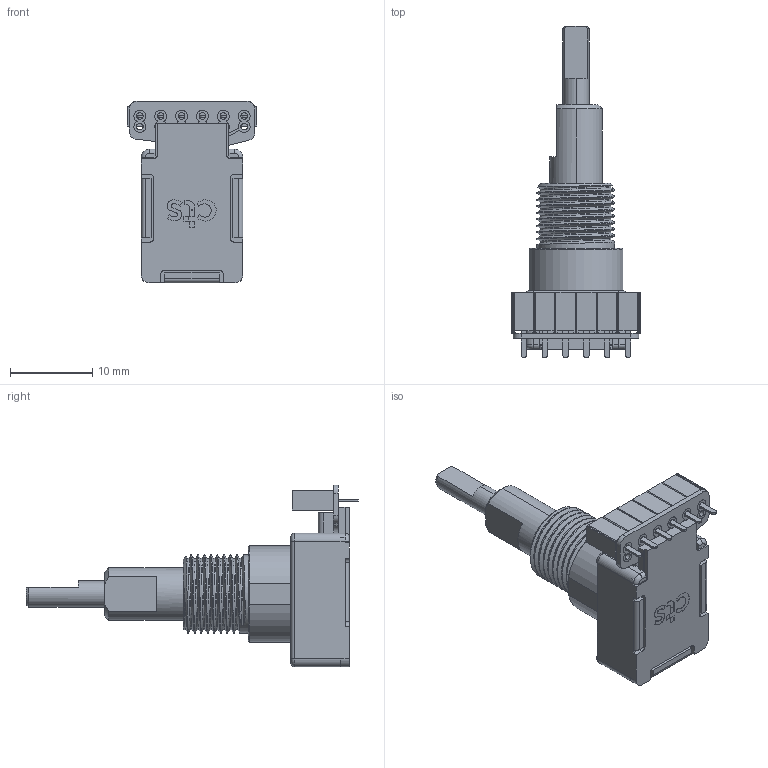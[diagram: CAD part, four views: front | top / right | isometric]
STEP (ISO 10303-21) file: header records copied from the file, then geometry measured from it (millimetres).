
FILE_DESCRIPTION(('Creo Elements/Direct Modeling STEP Export'),'2;1');
FILE_NAME('291AS0002.stp','2013-04-08T 0:01:04',(''),(''),'Creo Elements/Direct Modeling STEP processor for AP214 (Solid Model)','Creo Elements/Direct Modeling 18.1C 24-Feb-2013 (C) Parametric Technology GmbH','');
FILE_SCHEMA(('AUTOMOTIVE_DESIGN { 1 0 10303 214 1 1 1 1 }'));
Length unit declared in the file: millimetre
Products named in the file (2): 13MD291P-EF-0003-CS_RB.PRT.1
Assembly tree (1 placements, depth 2):
  13MD291P-EF-0003-CS_RB.PRT.1
    13MD291P-EF-0003-CS_RB.PRT.1
Bounding box: 15.74 x 40.39 x 22.13 mm (x, y, z)
Volume: 3082.8 mm3; surface area: 2326.9 mm2
Topology: 1 solids, 9 shells, 630 faces, 1738 edges, 1137 vertices
Faces by surface type: plane 397, cylinder 188, bspline 30, cone 9, torus 6
Entity records: 28208 total; most frequent: CARTESIAN_POINT 12429, ORIENTED_EDGE 3492, DIRECTION 3010, EDGE_CURVE 1738, VECTOR 1166, LINE 1166, VERTEX_POINT 1137, AXIS2_PLACEMENT_3D 922
